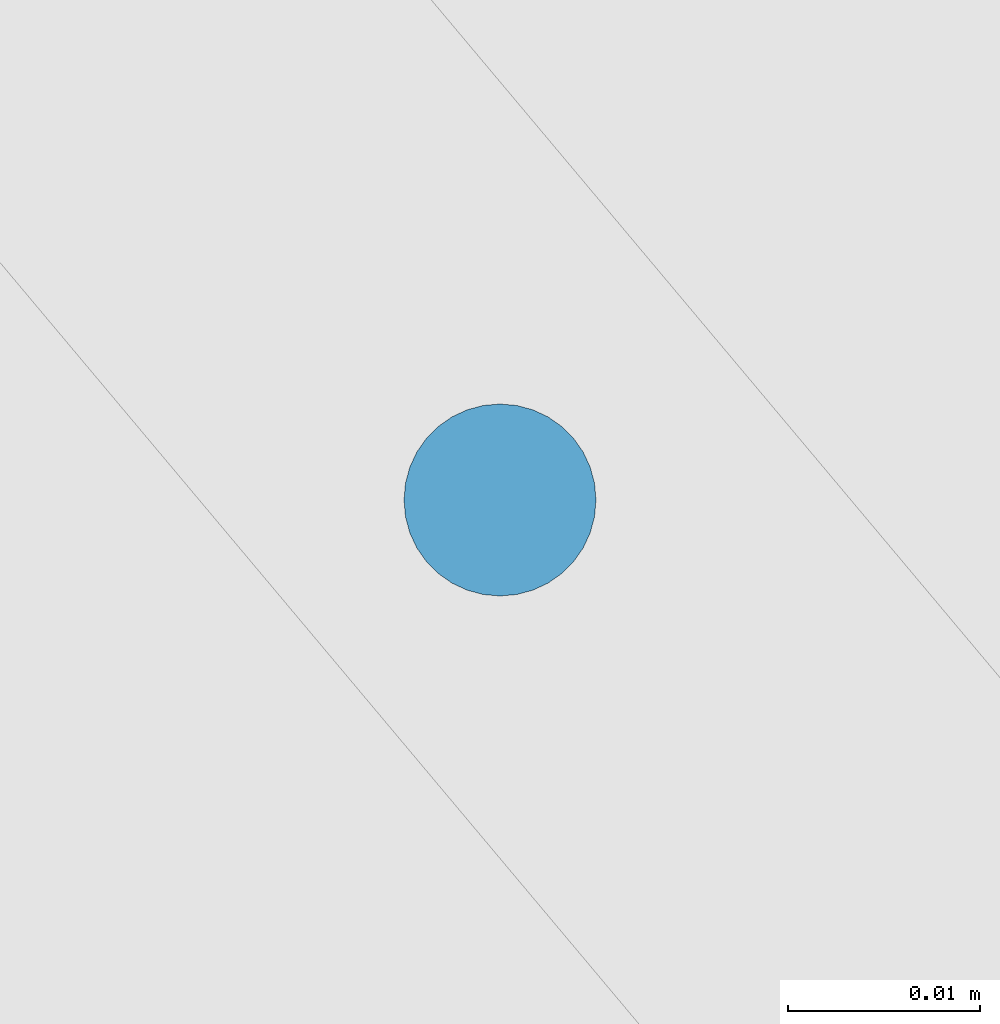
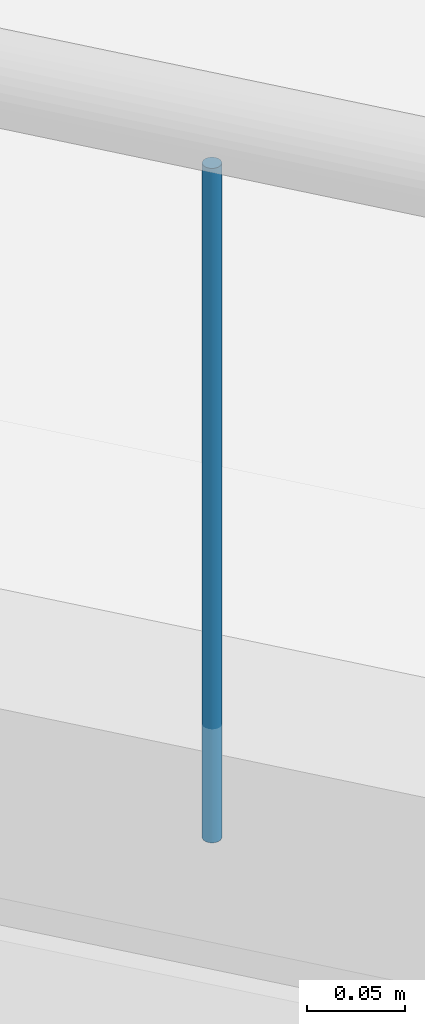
# One storey, part 6 of 321: 1 member, 1 element without a shape of its own.
"""IFC2X3 building model written with IfcOpenShell, lengths in millimetres."""

from ifc_helpers import new_model, entity, si_unit, converted_unit, derived_unit, money_unit, direction, frame, origin_with_axes, place, context, subcontext, project, spatial, faceted_brep, source, transform, mapped, material, type_object, type_shapes, element, aggregate, save


model = new_model("IFC2X3")

# Units and contexts
model_context = context("Model", 3, precision=0.01, world=origin_with_axes(), true_north=direction((0.0, 1.0)))
plan_context = context("Plan", 3, precision=0.01, world=origin_with_axes(), true_north=direction((0.0, 1.0)))
body_context = subcontext(model_context, "Body", "Model", "MODEL_VIEW")
ifc_project = project(units=[si_unit("LENGTHUNIT", "METRE", prefix="MILLI"), si_unit("AREAUNIT", "SQUARE_METRE"), si_unit("VOLUMEUNIT", "CUBIC_METRE"), converted_unit("PLANEANGLEUNIT", "DEGREE", entity("IfcPlaneAngleMeasure", 0.0174532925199), si_unit("PLANEANGLEUNIT", "RADIAN"), dimensions=[0, 0, 0, 0, 0, 0, 0]), money_unit("EUR"), converted_unit("TIMEUNIT", "Year", entity("IfcTimeMeasure", 31556926.0), si_unit("TIMEUNIT", "SECOND"), dimensions=[0, 0, 1, 0, 0, 0, 0]), si_unit("MASSUNIT", "GRAM", prefix="KILO"), si_unit("THERMODYNAMICTEMPERATUREUNIT", "DEGREE_CELSIUS"), si_unit("LUMINOUSINTENSITYUNIT", "LUMEN"), si_unit("ENERGYUNIT", "JOULE", prefix="MEGA"), derived_unit("THERMALCONDUCTANCEUNIT", [(si_unit("POWERUNIT", "WATT"), 1), (si_unit("LENGTHUNIT", "METRE"), -1), (si_unit("THERMODYNAMICTEMPERATUREUNIT", "KELVIN"), -1)]), derived_unit("SPECIFICHEATCAPACITYUNIT", [(si_unit("ENERGYUNIT", "JOULE"), 1), (si_unit("MASSUNIT", "GRAM", prefix="KILO"), -1), (si_unit("THERMODYNAMICTEMPERATUREUNIT", "KELVIN"), -1)]), derived_unit("MASSDENSITYUNIT", [(si_unit("MASSUNIT", "GRAM", prefix="KILO"), 1), (si_unit("VOLUMEUNIT", "CUBIC_METRE"), -1)])], contexts=[model_context, plan_context])

# Site, building, storey
site_placement = place(None, origin_with_axes())
site = spatial("IfcSite", under=ifc_project, at=site_placement, Name="Fortuinstraat Woensdrecht", CompositionType="ELEMENT")
building_placement = place(site_placement, origin_with_axes())
building = spatial("IfcBuilding", under=site, at=building_placement, Name="IKC Fortuna", CompositionType="ELEMENT")
storey_placement = place(building_placement, frame((0.0, 0.0, 4000.0), z_axis=(0.0, 0.0, 1.0), x_axis=(1.0, 0.0, 0.0)))
storey = spatial("IfcBuildingStorey", under=building, at=storey_placement, Name="01 eerste verdieping", CompositionType="ELEMENT", Elevation=4000.0)

# Railing, member
railing_type = type_object("IfcRailingType", Name="Railing Type", PredefinedType="NOTDEFINED")
railing_placement = place(storey_placement, frame((4151.56334028, 3601.06192057, 2353.5), z_axis=(0.0, 0.0, 1.0), x_axis=(1.0, 0.0, 0.0)))
railing = element("IfcRailing", 1, at=railing_placement, inside=storey, type_object=railing_type, Name="34_Reling_Reling vide", PredefinedType="NOTDEFINED")
ifc_material = material(Name="Metaal - Staal AFW")
member_type = type_object("IfcMemberType", Name="IfcMember", PredefinedType="MEMBER")
shared_shape = source(origin_with_axes(), body_context, "Body", "Brep", [
    faceted_brep([(0.0, -5.0, 0.0), (0.868240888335, -4.92403876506, 0.0), (0.868240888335, -4.92403876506, 418.5), (0.0, -5.0, 418.5), (-0.868240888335, -4.92403876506, 0.0), (-1.71010071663, -4.69846310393, 0.0), (-2.5, -4.33012701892, 0.0), (-3.21393804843, -3.83022221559, 0.0), (-3.83022221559, -3.21393804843, 0.0), (-4.33012701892, -2.5, 0.0), (-4.69846310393, -1.71010071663, 0.0), (-4.92403876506, -0.868240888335, 0.0), (-5.0, 0.0, 0.0), (-4.92403876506, 0.868240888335, 0.0), (-4.69846310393, 1.71010071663, 0.0), (-4.33012701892, 2.5, 0.0), (-3.83022221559, 3.21393804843, 0.0), (-3.21393804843, 3.83022221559, 0.0), (-2.5, 4.33012701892, 0.0), (-1.71010071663, 4.69846310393, 0.0), (-0.868240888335, 4.92403876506, 0.0), (0.0, 5.0, 0.0), (0.868240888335, 4.92403876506, 0.0), (1.71010071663, 4.69846310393, 0.0), (2.5, 4.33012701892, 0.0), (3.21393804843, 3.83022221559, 0.0), (3.83022221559, 3.21393804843, 0.0), (4.33012701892, 2.5, 0.0), (4.69846310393, 1.71010071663, 0.0), (4.92403876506, 0.868240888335, 0.0), (5.0, 0.0, 0.0), (4.92403876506, -0.868240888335, 0.0), (4.69846310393, -1.71010071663, 0.0), (4.33012701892, -2.5, 0.0), (3.83022221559, -3.21393804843, 0.0), (3.21393804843, -3.83022221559, 0.0), (2.5, -4.33012701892, 0.0), (1.71010071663, -4.69846310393, 0.0), (1.71010071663, -4.69846310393, 418.5), (2.5, -4.33012701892, 418.5), (3.21393804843, -3.83022221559, 418.5), (3.83022221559, -3.21393804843, 418.5), (4.33012701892, -2.5, 418.5), (4.69846310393, -1.71010071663, 418.5), (4.92403876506, -0.868240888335, 418.5), (5.0, 0.0, 418.5), (4.92403876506, 0.868240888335, 418.5), (4.69846310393, 1.71010071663, 418.5), (4.33012701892, 2.5, 418.5), (3.83022221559, 3.21393804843, 418.5), (3.21393804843, 3.83022221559, 418.5), (2.5, 4.33012701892, 418.5), (1.71010071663, 4.69846310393, 418.5), (0.868240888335, 4.92403876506, 418.5), (0.0, 5.0, 418.5), (-0.868240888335, 4.92403876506, 418.5), (-1.71010071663, 4.69846310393, 418.5), (-2.5, 4.33012701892, 418.5), (-3.21393804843, 3.83022221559, 418.5), (-3.83022221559, 3.21393804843, 418.5), (-4.33012701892, 2.5, 418.5), (-4.69846310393, 1.71010071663, 418.5), (-4.92403876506, 0.868240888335, 418.5), (-5.0, 0.0, 418.5), (-4.92403876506, -0.868240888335, 418.5), (-4.69846310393, -1.71010071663, 418.5), (-4.33012701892, -2.5, 418.5), (-3.83022221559, -3.21393804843, 418.5), (-3.21393804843, -3.83022221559, 418.5), (-2.5, -4.33012701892, 418.5), (-1.71010071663, -4.69846310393, 418.5), (-0.868240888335, -4.92403876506, 418.5)], [[[0, 1, 2, 3]], [[0, 4, 5, 6, 7, 8, 9, 10, 11, 12, 13, 14, 15, 16, 17, 18, 19, 20, 21, 22, 23, 24, 25, 26, 27, 28, 29, 30, 31, 32, 33, 34, 35, 36, 37, 1]], [[1, 37, 38, 2]], [[3, 2, 38, 39, 40, 41, 42, 43, 44, 45, 46, 47, 48, 49, 50, 51, 52, 53, 54, 55, 56, 57, 58, 59, 60, 61, 62, 63, 64, 65, 66, 67, 68, 69, 70, 71]], [[4, 0, 3, 71]], [[5, 4, 71, 70]], [[6, 5, 70, 69]], [[7, 6, 69, 68]], [[8, 7, 68, 67]], [[9, 8, 67, 66]], [[10, 9, 66, 65]], [[11, 10, 65, 64]], [[12, 11, 64, 63]], [[13, 12, 63, 62]], [[14, 13, 62, 61]], [[15, 14, 61, 60]], [[16, 15, 60, 59]], [[17, 16, 59, 58]], [[18, 17, 58, 57]], [[19, 18, 57, 56]], [[20, 19, 56, 55]], [[21, 20, 55, 54]], [[22, 21, 54, 53]], [[23, 22, 53, 52]], [[24, 23, 52, 51]], [[25, 24, 51, 50]], [[26, 25, 50, 49]], [[27, 26, 49, 48]], [[28, 27, 48, 47]], [[29, 28, 47, 46]], [[30, 29, 46, 45]], [[31, 30, 45, 44]], [[32, 31, 44, 43]], [[33, 32, 43, 42]], [[34, 33, 42, 41]], [[35, 34, 41, 40]], [[36, 35, 40, 39]], [[37, 36, 39, 38]]]),
])
type_shapes(member_type, [shared_shape])
member_placement = place(railing_placement, frame((8084.63312603, -18292.4936824, -18.5), z_axis=(0.0, 0.0, 1.0), x_axis=(1.0, 0.0, 0.0)))
member = element("IfcMember", 2, at=member_placement, type_object=member_type, material=ifc_material, Name="_Onderdeel_Spijlen-x", ObjectType="MEMBER", context=body_context, shape_type="MappedRepresentation", body=[
    mapped(shared_shape, transform((0.0, 0.0, 0.0), x_axis=(-0.766044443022, -0.642787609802, 0.0), y_axis=(0.642787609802, -0.766044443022, 0.0), z_axis=(0.0, 0.0, 1.0))),
])
aggregate(railing, [member])

save(model, "model.ifc")
